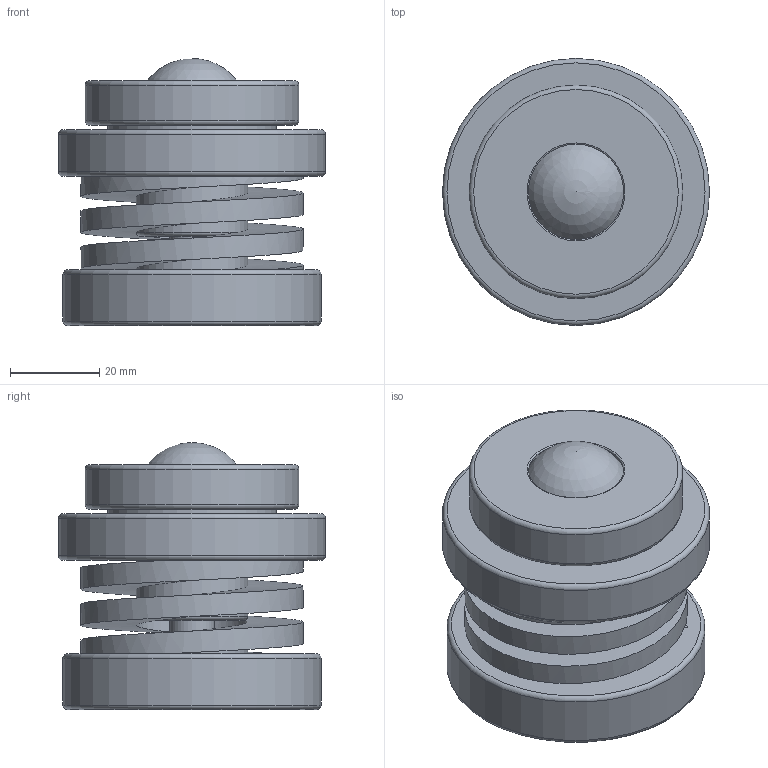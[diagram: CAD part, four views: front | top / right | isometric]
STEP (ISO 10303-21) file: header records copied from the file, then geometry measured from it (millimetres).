
FILE_DESCRIPTION(/* description */ (''),/* implementation_level */ '2;1');
FILE_NAME(/* name */ 'Z:\80-CAD共有ファイル\製品3D\X2\30C730FC30BF\X0\\08-IS-BK(BM)\IS-25BK-20.stp',/* time_stamp */ '2015-01-06T16:00:08+09:00',/* author */ ('yamaki'),/* organization */ (''),/* preprocessor_version */ 'ST-DEVELOPER v15.6',/* originating_system */ 'Autodesk Inventor 2015',/* authorisation */ '');
FILE_SCHEMA (('AUTOMOTIVE_DESIGN { 1 0 10303 214 3 1 1 }'));
Length unit declared in the file: millimetre
Products named in the file (4): 0820AT-01; 0820AT-02; 0820AT-03; 0820AA
Bounding box: 60 x 60 x 60 mm (x, y, z)
Volume: 108223.6 mm3; surface area: 33477.4 mm2
Topology: 3 solids, 3 shells, 50 faces, 93 edges, 58 vertices
Faces by surface type: plane 21, cylinder 14, torus 11, bspline 2, cone 1, sphere 1
Full cylindrical faces by diameter (mm): 10 x1, 10.6 x1, 13 x1, 16 x1, 21.4 x1, 25 x3, 38 x1, 48 x1, 58 x1, 60 x1
Entity records: 1624 total; most frequent: CARTESIAN_POINT 637, DIRECTION 208, ORIENTED_EDGE 132, AXIS2_PLACEMENT_3D 95, EDGE_LOOP 86, EDGE_CURVE 66, VERTEX_POINT 56, FACE_OUTER_BOUND 50
